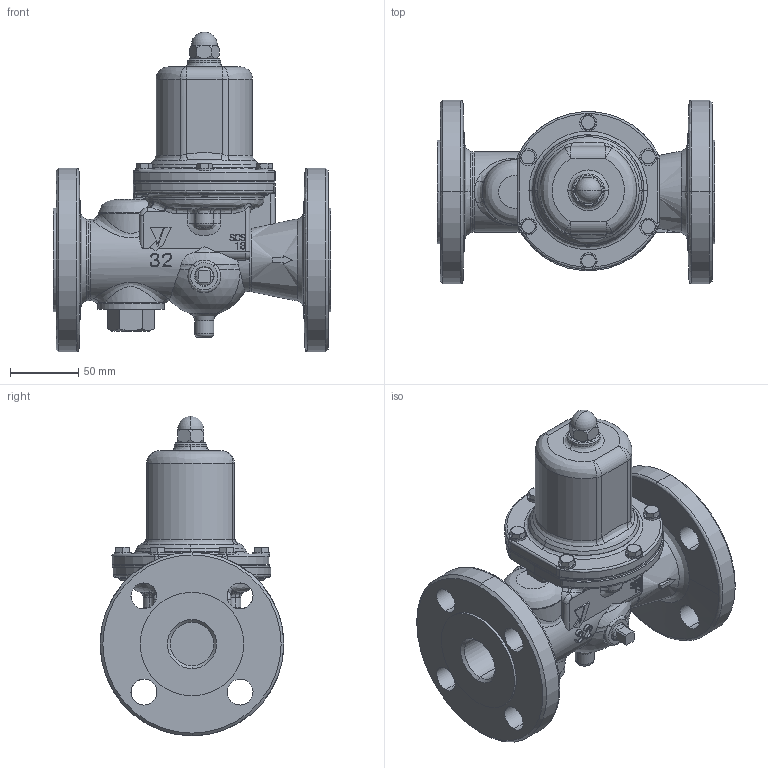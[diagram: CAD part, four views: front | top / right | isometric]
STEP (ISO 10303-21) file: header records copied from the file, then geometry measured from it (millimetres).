
FILE_DESCRIPTION( (''), '2;1');
FILE_NAME ('PC2091.11224.GD-29S-NE 32A_20939.stp','2026-03-26T17:14:27',(''),(''),'spGate 21.9.4 (****-****-****-****)','','');
FILE_SCHEMA (('AUTOMOTIVE_DESIGN'));
Length unit declared in the file: millimetre
Products named in the file (9): Assembly; ダイヤフラム　32-40A; 保護筒 32-40A; ストレーナキャップ32-40A; CP_''_JIS B 1183 六角袋ナット 3形 M''_705; CP_''_JIS B 1180 呼び径六角ボルト''_17166; プラグ3D; 32A 弁箱_M1; CP_平座金(ミ''_JIS B 1256 みがき丸 6_740
Assembly tree (21 placements, depth 2):
  Assembly
    ダイヤフラム　32-40A
    保護筒 32-40A
    ストレーナキャップ32-40A
    CP_''_JIS B 1183 六角袋ナット 3形 M''_705
    CP_''_JIS B 1180 呼び径六角ボルト''_17166  x6
    プラグ3D  x4
    32A 弁箱_M1
    CP_平座金(ミ''_JIS B 1256 みがき丸 6_740  x6
Bounding box: 203.96 x 135 x 235 mm (x, y, z)
Volume: 1545252.8 mm3; surface area: 217077.9 mm2
Topology: 21 solids, 21 shells, 754 faces, 1831 edges, 1138 vertices
Faces by surface type: bspline 287, plane 231, cylinder 217, sphere 19
Full cylindrical faces by diameter (mm): 59.369 x1
Entity records: 36212 total; most frequent: CARTESIAN_POINT 13135, ORIENTED_EDGE 2806, DIRECTION 2040, COLOUR_RGB 1973, PRESENTATION_STYLE_ASSIGNMENT 1973, STYLED_ITEM 1973, EDGE_CURVE 1403, DRAUGHTING_PRE_DEFINED_CURVE_FONT 1403
